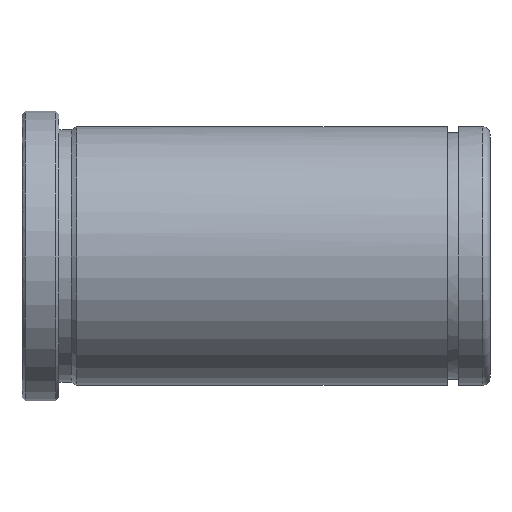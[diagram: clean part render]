
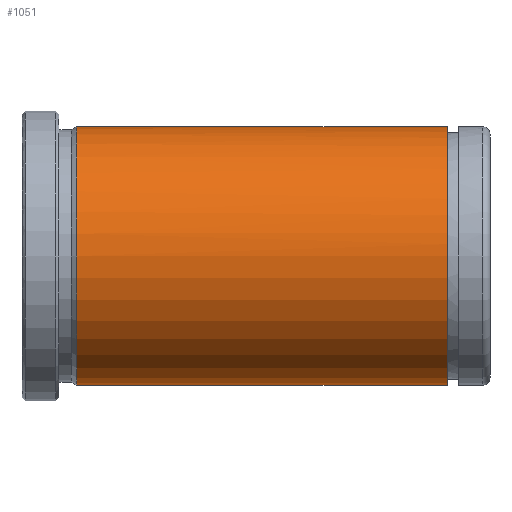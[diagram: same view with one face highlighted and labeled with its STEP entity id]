
A CAD part, front view. The second image highlights one B-rep face of the part: STEP entity #1051.
In plain terms, the highlighted cylindrical face has radius 21 mm (diameter 42 mm), a partial arc.
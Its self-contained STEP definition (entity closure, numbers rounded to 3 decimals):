
#851=CARTESIAN_POINT('Vertex',(8.866,0.,-21.)) ;
#858=CARTESIAN_POINT('Vertex',(8.866,0.,21.)) ;
#887=CARTESIAN_POINT('Axis2P3D Location',(8.866,0.,0.)) ;
#891=CARTESIAN_POINT('Vertex',(8.866,-21.,0.)) ;
#894=CARTESIAN_POINT('Axis2P3D Location',(8.866,0.,0.)) ;
#985=CARTESIAN_POINT('Line Origine',(152.,0.,21.)) ;
#989=CARTESIAN_POINT('Vertex',(69.05,0.,21.)) ;
#1006=CARTESIAN_POINT('Vertex',(69.05,0.,-21.)) ;
#1009=CARTESIAN_POINT('Line Origine',(152.,0.,-21.)) ;
#1023=CARTESIAN_POINT('Axis2P3D Location',(152.,0.,0.)) ;
#1028=CARTESIAN_POINT('Axis2P3D Location',(69.05,0.,0.)) ;
#1032=CARTESIAN_POINT('Vertex',(69.05,-21.,0.)) ;
#1036=CARTESIAN_POINT('Control Point',(69.05,0.,21.)) ;
#1037=CARTESIAN_POINT('Control Point',(69.05,-6.597,21.)) ;
#1038=CARTESIAN_POINT('Control Point',(69.05,-13.201,18.417)) ;
#1039=CARTESIAN_POINT('Control Point',(69.05,-18.417,13.201)) ;
#1040=CARTESIAN_POINT('Control Point',(69.05,-21.,6.597)) ;
#1041=CARTESIAN_POINT('Control Point',(69.05,-21.,0.)) ;
#888=DIRECTION('Axis2P3D Direction',(1.,0.,-0.)) ;
#895=DIRECTION('Axis2P3D Direction',(1.,0.,-0.)) ;
#986=DIRECTION('Vector Direction',(-1.,0.,0.)) ;
#1010=DIRECTION('Vector Direction',(-1.,0.,0.)) ;
#1024=DIRECTION('Axis2P3D Direction',(-1.,-0.,-0.)) ;
#1025=DIRECTION('Axis2P3D XDirection',(0.,0.,-1.)) ;
#1029=DIRECTION('Axis2P3D Direction',(-1.,-0.,-0.)) ;
#889=AXIS2_PLACEMENT_3D('Circle Axis2P3D',#887,#888,$) ;
#896=AXIS2_PLACEMENT_3D('Circle Axis2P3D',#894,#895,$) ;
#1026=AXIS2_PLACEMENT_3D('Cylinder Axis2P3D',#1023,#1024,#1025) ;
#1030=AXIS2_PLACEMENT_3D('Circle Axis2P3D',#1028,#1029,$) ;
#1044=ORIENTED_EDGE('',*,*,#1013,.T.) ;
#1045=ORIENTED_EDGE('',*,*,#1034,.F.) ;
#1046=ORIENTED_EDGE('',*,*,#1042,.F.) ;
#1047=ORIENTED_EDGE('',*,*,#991,.T.) ;
#1048=ORIENTED_EDGE('',*,*,#898,.T.) ;
#1049=ORIENTED_EDGE('',*,*,#893,.T.) ;
#987=VECTOR('Line Direction',#986,1.) ;
#1011=VECTOR('Line Direction',#1010,1.) ;
#1051=ADVANCED_FACE('553-32X76',(#1050),#1027,.T.) ;
#1035=B_SPLINE_CURVE_WITH_KNOTS('',5,(#1036,#1037,#1038,#1039,#1040,#1041),.UNSPECIFIED.,.F.,.U.,(6,6),(-16.493,16.493),.UNSPECIFIED.) ;
#890=CIRCLE('generated circle',#889,21.) ;
#897=CIRCLE('generated circle',#896,21.) ;
#1031=CIRCLE('generated circle',#1030,21.) ;
#1027=CYLINDRICAL_SURFACE('generated cylinder',#1026,21.) ;
#893=EDGE_CURVE('',#892,#852,#890,.T.) ;
#898=EDGE_CURVE('',#859,#892,#897,.T.) ;
#991=EDGE_CURVE('',#990,#859,#988,.T.) ;
#1013=EDGE_CURVE('',#852,#1007,#1012,.F.) ;
#1034=EDGE_CURVE('',#1033,#1007,#1031,.F.) ;
#1042=EDGE_CURVE('',#990,#1033,#1035,.T.) ;
#1043=EDGE_LOOP('',(#1044,#1045,#1046,#1047,#1048,#1049)) ;
#1050=FACE_OUTER_BOUND('',#1043,.T.) ;
#988=LINE('Line',#985,#987) ;
#1012=LINE('Line',#1009,#1011) ;
#852=VERTEX_POINT('',#851) ;
#859=VERTEX_POINT('',#858) ;
#892=VERTEX_POINT('',#891) ;
#990=VERTEX_POINT('',#989) ;
#1007=VERTEX_POINT('',#1006) ;
#1033=VERTEX_POINT('',#1032) ;
